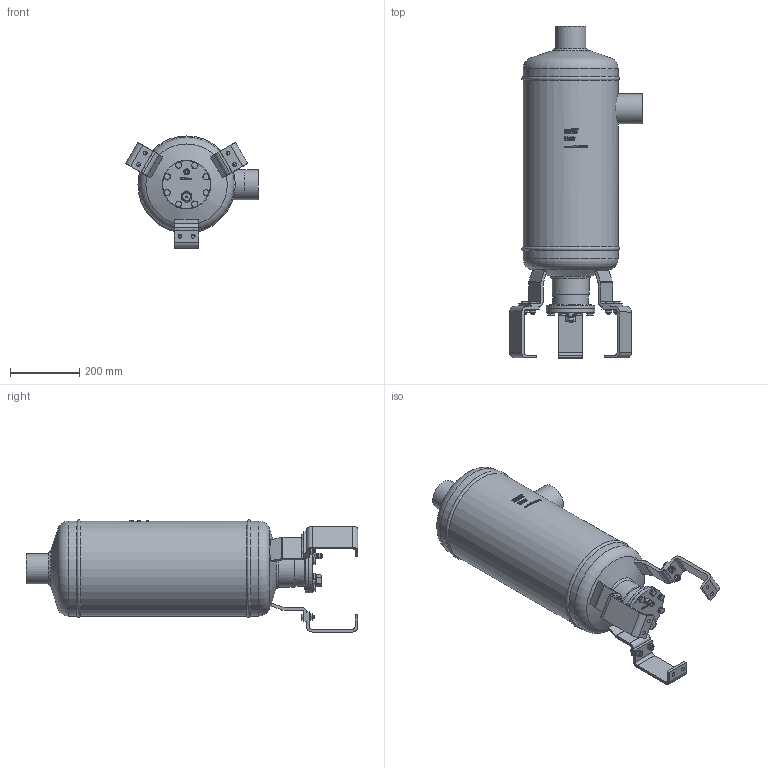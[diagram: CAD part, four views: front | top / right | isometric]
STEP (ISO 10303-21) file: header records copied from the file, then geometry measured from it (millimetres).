
FILE_DESCRIPTION(/* description */ (''),/* implementation_level */ '2;1');
FILE_NAME(/* name */ 'P:\OS\OS-80FX-CD\OS-80FX-CD.stp',/* time_stamp */ '2017-10-04T08:18:11+02:00',/* author */ ('neufeld'),/* organization */ (''),/* preprocessor_version */ 'ST-DEVELOPER v16.1',/* originating_system */ 'Autodesk Inventor 2016',/* authorisation */ '');
FILE_SCHEMA (('AUTOMOTIVE_DESIGN { 1 0 10303 214 3 1 1 }'));
Length unit declared in the file: millimetre
Products named in the file (2): OS-80FX-CD; OS-80FX-CD_1
Assembly tree (1 placements, depth 2):
  OS-80FX-CD_1
    OS-80FX-CD
Bounding box: 382.05 x 955.47 x 322.71 mm (x, y, z)
Volume: 38614746.6 mm3; surface area: 950729.3 mm2
Topology: 1 solids, 6 shells, 1791 faces, 4610 edges, 3018 vertices
Faces by surface type: plane 919, bspline 454, cylinder 259, cone 147, torus 8, sphere 4
Full cylindrical faces by diameter (mm): 5 x1, 7.2 x1, 8.1 x1, 9.188 x14, 10 x28, 10.3 x6, 10.5 x14, 11 x7, 12.1 x1, 12.9 x1, 13.5 x1, 15 x1, 15.4 x14, 15.7 x1, 15.75 x1, 15.87 x1, 16 x1, 17 x2, 20 x1, 22.5 x2, 23.4 x1, 23.6 x1, 25.2 x1, 80.3 x2, 87 x2, 102 x1, 106 x1, 107.2 x1, 107.9 x1, 135 x1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
Entity records: 62488 total; most frequent: CARTESIAN_POINT 22530, ORIENTED_EDGE 8764, DIRECTION 7123, EDGE_CURVE 4382, VERTEX_POINT 2965, AXIS2_PLACEMENT_3D 2575, EDGE_LOOP 2213, LINE 1973
